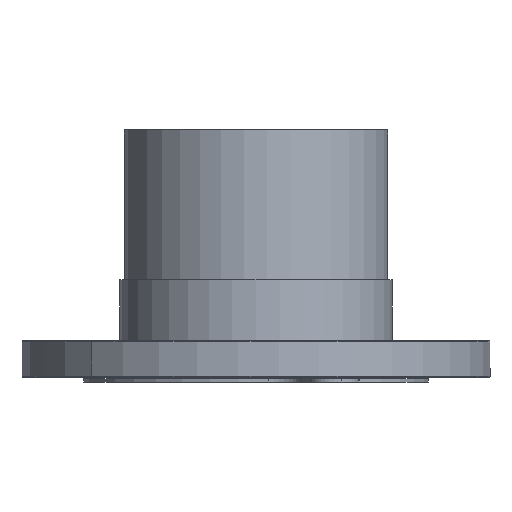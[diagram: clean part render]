
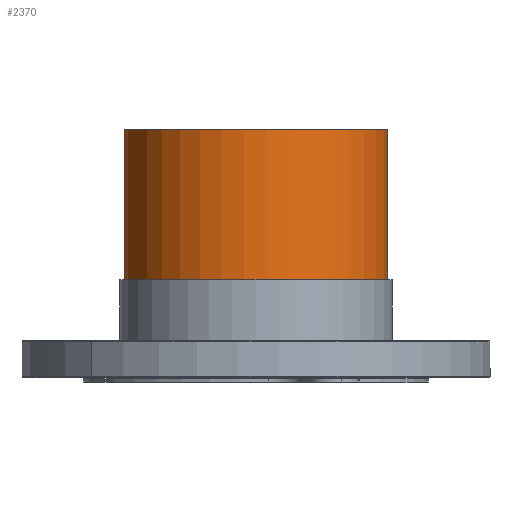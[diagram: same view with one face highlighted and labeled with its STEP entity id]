
A CAD part, front view. The second image highlights one B-rep face of the part: STEP entity #2370.
In plain terms, the highlighted cylindrical face has radius 80.25 mm (diameter 160.5 mm), a partial arc.
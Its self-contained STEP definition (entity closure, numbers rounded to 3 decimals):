
#102 = CARTESIAN_POINT ( 'NONE',  ( -48.564, 17.071, 143.758 ) ) ;
#126 = ORIENTED_EDGE ( 'NONE', *, *, #2020, .T. ) ;
#209 = VERTEX_POINT ( 'NONE', #1147 ) ;
#230 = CARTESIAN_POINT ( 'NONE',  ( -48.564, 17.071, 2.758 ) ) ;
#352 = DIRECTION ( 'NONE',  ( -0.996, 0.092, 0. ) ) ;
#507 = ORIENTED_EDGE ( 'NONE', *, *, #2859, .F. ) ;
#534 = EDGE_LOOP ( 'NONE', ( #507, #1870, #126, #1799 ) ) ;
#560 = DIRECTION ( 'NONE',  ( 0.996, -0.092, 0. ) ) ;
#640 = DIRECTION ( 'NONE',  ( 0., 0., -1. ) ) ;
#810 = CARTESIAN_POINT ( 'NONE',  ( 31.344, 9.68, 143.758 ) ) ;
#846 = CARTESIAN_POINT ( 'NONE',  ( -128.473, 24.463, 143.758 ) ) ;
#1055 = CARTESIAN_POINT ( 'NONE',  ( -128.473, 24.463, 2.758 ) ) ;
#1071 = LINE ( 'NONE', #810, #2034 ) ;
#1147 = CARTESIAN_POINT ( 'NONE',  ( 31.344, 9.68, 143.758 ) ) ;
#1181 = EDGE_CURVE ( 'NONE', #2342, #209, #1790, .T. ) ;
#1191 = DIRECTION ( 'NONE',  ( 0., 0., 1. ) ) ;
#1196 = VERTEX_POINT ( 'NONE', #1918 ) ;
#1520 = EDGE_CURVE ( 'NONE', #2940, #1196, #2570, .T. ) ;
#1531 = DIRECTION ( 'NONE',  ( 0., 0., -1. ) ) ;
#1537 = LINE ( 'NONE', #2482, #2293 ) ;
#1723 = CARTESIAN_POINT ( 'NONE',  ( -48.564, 17.071, 143.758 ) ) ;
#1754 = DIRECTION ( 'NONE',  ( 0., 0., -1. ) ) ;
#1790 = CIRCLE ( 'NONE', #2178, 80.25 ) ;
#1799 = ORIENTED_EDGE ( 'NONE', *, *, #1520, .T. ) ;
#1870 = ORIENTED_EDGE ( 'NONE', *, *, #1181, .F. ) ;
#1918 = CARTESIAN_POINT ( 'NONE',  ( 31.344, 9.68, 2.758 ) ) ;
#2020 = EDGE_CURVE ( 'NONE', #2342, #2940, #1537, .T. ) ;
#2034 = VECTOR ( 'NONE', #1754, 1000. ) ;
#2126 = DIRECTION ( 'NONE',  ( 0.996, -0.092, 0. ) ) ;
#2178 = AXIS2_PLACEMENT_3D ( 'NONE', #1723, #2622, #560 ) ;
#2179 = AXIS2_PLACEMENT_3D ( 'NONE', #230, #1191, #2126 ) ;
#2212 = FACE_OUTER_BOUND ( 'NONE', #534, .T. ) ;
#2293 = VECTOR ( 'NONE', #640, 1000. ) ;
#2342 = VERTEX_POINT ( 'NONE', #846 ) ;
#2370 = ADVANCED_FACE ( 'NONE', ( #2212 ), #2938, .T. ) ;
#2482 = CARTESIAN_POINT ( 'NONE',  ( -128.473, 24.463, 143.758 ) ) ;
#2570 = CIRCLE ( 'NONE', #2179, 80.25 ) ;
#2622 = DIRECTION ( 'NONE',  ( 0., 0., 1. ) ) ;
#2859 = EDGE_CURVE ( 'NONE', #209, #1196, #1071, .T. ) ;
#2938 = CYLINDRICAL_SURFACE ( 'NONE', #2942, 80.25 ) ;
#2940 = VERTEX_POINT ( 'NONE', #1055 ) ;
#2942 = AXIS2_PLACEMENT_3D ( 'NONE', #102, #1531, #352 ) ;
